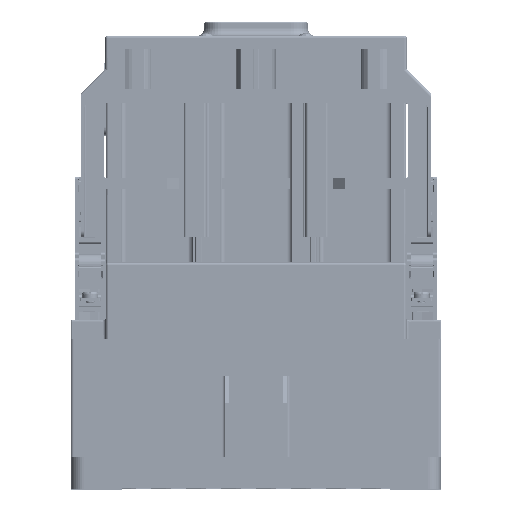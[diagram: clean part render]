
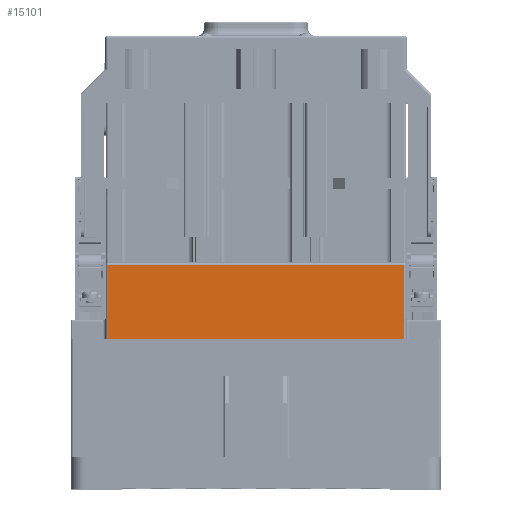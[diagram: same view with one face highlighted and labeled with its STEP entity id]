
A CAD part, top view. The second image highlights one B-rep face of the part: STEP entity #15101.
In plain terms, the highlighted planar face has unit normal (0, 0, 1).
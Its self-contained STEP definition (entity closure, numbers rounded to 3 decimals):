
#6339=PLANE('',#189761);
#15101=ADVANCED_FACE('',(#26462),#6339,.T.);
#26462=FACE_OUTER_BOUND('',#36481,.T.);
#36481=EDGE_LOOP('',(#108254,#108255,#108256,#108257));
#52193=LINE('',#273757,#73641);
#52560=LINE('',#274546,#74008);
#52561=LINE('',#274548,#74009);
#52562=LINE('',#274550,#74010);
#73641=VECTOR('',#217591,1.);
#74008=VECTOR('',#218288,1.);
#74009=VECTOR('',#218289,1.);
#74010=VECTOR('',#218290,1.);
#108254=ORIENTED_EDGE('',*,*,#166471,.T.);
#108255=ORIENTED_EDGE('',*,*,#166472,.T.);
#108256=ORIENTED_EDGE('',*,*,#166473,.T.);
#108257=ORIENTED_EDGE('',*,*,#166054,.T.);
#145198=VERTEX_POINT('',#273756);
#145199=VERTEX_POINT('',#273758);
#145456=VERTEX_POINT('',#274547);
#145457=VERTEX_POINT('',#274549);
#166054=EDGE_CURVE('',#145199,#145198,#52193,.T.);
#166471=EDGE_CURVE('',#145198,#145456,#52560,.T.);
#166472=EDGE_CURVE('',#145456,#145457,#52561,.T.);
#166473=EDGE_CURVE('',#145457,#145199,#52562,.T.);
#189761=AXIS2_PLACEMENT_3D('',#274551,#218291,#218292);
#217591=DIRECTION('',(1.,0.,0.));
#218288=DIRECTION('',(0.,1.,0.));
#218289=DIRECTION('',(-1.,0.,0.));
#218290=DIRECTION('',(0.,-1.,0.));
#218291=DIRECTION('',(0.,0.,1.));
#218292=DIRECTION('',(1.,0.,0.));
#273756=CARTESIAN_POINT('',(55.,-107.,72.5));
#273757=CARTESIAN_POINT('',(-56.,-107.,72.5));
#273758=CARTESIAN_POINT('',(-55.,-107.,72.5));
#274546=CARTESIAN_POINT('',(55.,-78.5,72.5));
#274547=CARTESIAN_POINT('',(55.,-79.5,72.5));
#274548=CARTESIAN_POINT('',(-56.,-79.5,72.5));
#274549=CARTESIAN_POINT('',(-55.,-79.5,72.5));
#274550=CARTESIAN_POINT('',(-55.,-107.,72.5));
#274551=CARTESIAN_POINT('',(-56.,-107.,72.5));
